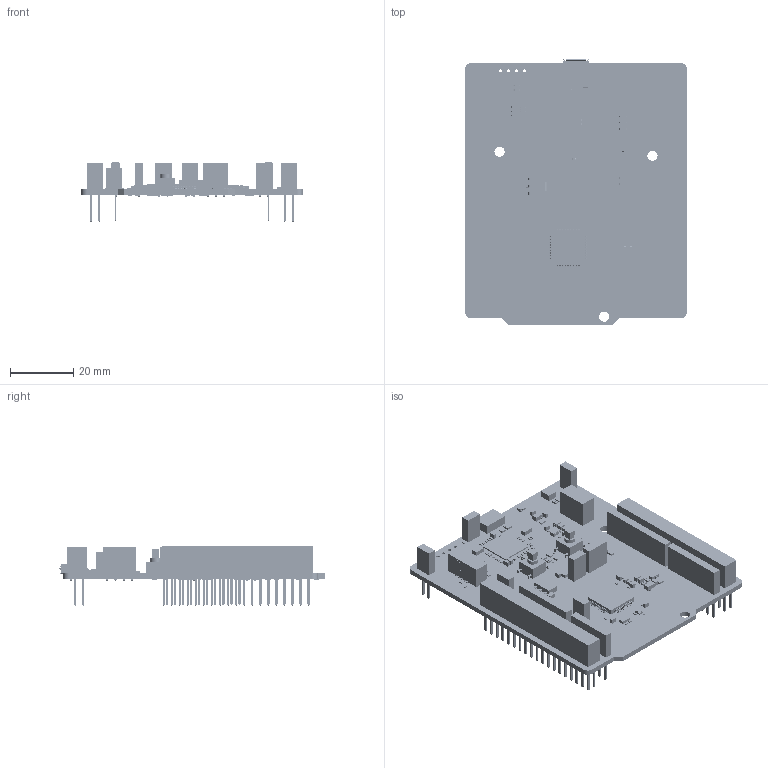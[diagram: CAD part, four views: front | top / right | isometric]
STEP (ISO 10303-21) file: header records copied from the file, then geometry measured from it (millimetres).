
FILE_DESCRIPTION(('Open CASCADE Model'),'2;1');
FILE_NAME('Open CASCADE Shape Model','2025-10-24T14:19:04',('Author'),( 'Open CASCADE'),'Open CASCADE STEP processor 7.5','Open CASCADE 7.5' ,'Unknown');
FILE_SCHEMA(('AUTOMOTIVE_DESIGN { 1 0 10303 214 1 1 1 1 }'));
Length unit declared in the file: millimetre
Products named in the file (348): PCB; Board; Open CASCADE STEP translator 7.5 1.1.1; SB41; R0603; 6565281888; Extruded; SB40; U13; LQFP64_10X10_P050; 6565587808; C51; C0603; 6565299328; C46; 6565296448; U14; SOT23-5L; 6566183808; JP7; TSW-102-07-G-S; _TSW-102-07-G-S_body; _T-1S6-07-TSW-1-07-2-S; 6565583328; JP3; JP8; Samtec-TSW-103-07-F-S; 6565583648; C16; C0402; 6565299168; C14; C27; 6566184688; C9; C13; C17; C8; C4; C12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
Assembly tree (817 placements, depth 4):
  PCB
    Board
      Open CASCADE STEP translator 7.5 1.1.1
    SB41
      R0603
      6565281888
        Extruded
    SB40
      R0603
      6565281888
        Extruded
    U13
      LQFP64_10X10_P050
      6565587808
        Extruded
    C51
      C0603
      6565299328
        Extruded
    C46
      C0603
      6565296448
        Extruded
    U14
      SOT23-5L
      6566183808
        Extruded
    JP7
      TSW-102-07-G-S
        _TSW-102-07-G-S_body
        _T-1S6-07-TSW-1-07-2-S
      6565583328
        Extruded
    JP3
      TSW-102-07-G-S
        _TSW-102-07-G-S_body
        _T-1S6-07-TSW-1-07-2-S
      6565583328
        Extruded
    JP8
      Samtec-TSW-103-07-F-S
      6565583648
        Extruded
    C16
      C0402
      6565299168
        Extruded
    C14
      C0402
      6565299168
        Extruded
    C27
      C0402
      6566184688
        Extruded
    C9
      C0402
      6565299168
        Extruded
    C13
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Bounding box: 70 x 83.65 x 18.67 mm (x, y, z)
Volume: 21595.6 mm3; surface area: 35280.5 mm2
Topology: 748 solids, 756 shells, 22560 faces, 54878 edges, 33295 vertices
Faces by surface type: plane 12375, cylinder 4507, bspline 3965, sphere 1236, revolution 304, torus 173
Full cylindrical faces by diameter (mm): 0.2 x1, 0.3 x1, 0.4 x2, 0.5 x1, 0.9 x2, 0.97 x2, 1 x105, 1.1 x32, 1.19 x2, 3.2 x3, 3.4 x2
Entity records: 239979 total; most frequent: CARTESIAN_POINT 47354, ORIENTED_EDGE 31854, DIRECTION 30986, EDGE_CURVE 15929, LINE 13598, VECTOR 13598, VERTEX_POINT 10106, AXIS2_PLACEMENT_3D 8690
